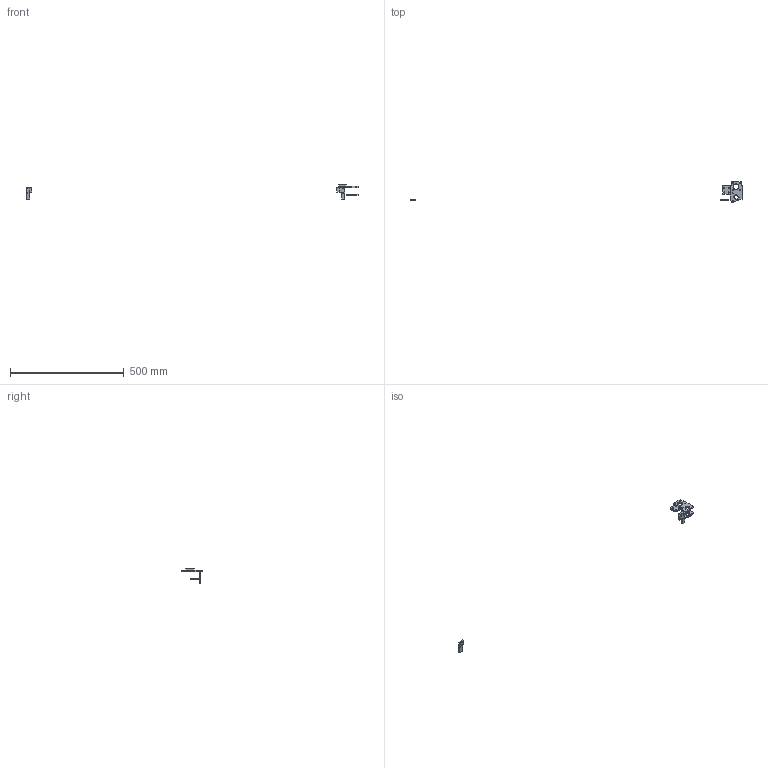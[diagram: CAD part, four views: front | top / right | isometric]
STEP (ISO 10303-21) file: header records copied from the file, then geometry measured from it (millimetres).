
FILE_DESCRIPTION(/* description */ (''),/* implementation_level */ '2;1');
FILE_NAME(/* name */ 'X-3AFF~1',/* time_stamp */ '2014-02-14T19:47:36+01:00',/* author */ (''),/* organization */ (''),/* preprocessor_version */ 'ST-DEVELOPER v14',/* originating_system */ '',/* authorisation */ '');
FILE_SCHEMA (('AUTOMOTIVE_DESIGN'));
Length unit declared in the file: millimetre
Products named in the file (1): Document
Bounding box: 1461 x 91.5 x 62 mm (x, y, z)
Volume: 54037.8 mm3; surface area: 27091.4 mm2
Topology: 5 solids, 5 shells, 114 faces, 312 edges, 208 vertices
Faces by surface type: bspline 75, plane 39
Entity records: 7859 total; most frequent: CARTESIAN_POINT 3947, ORIENTED_EDGE 624, PCURVE 624, DEFINITIONAL_REPRESENTATION 624, B_SPLINE_CURVE_WITH_KNOTS 563, SURFACE_CURVE 312, EDGE_CURVE 312, VERTEX_POINT 208
